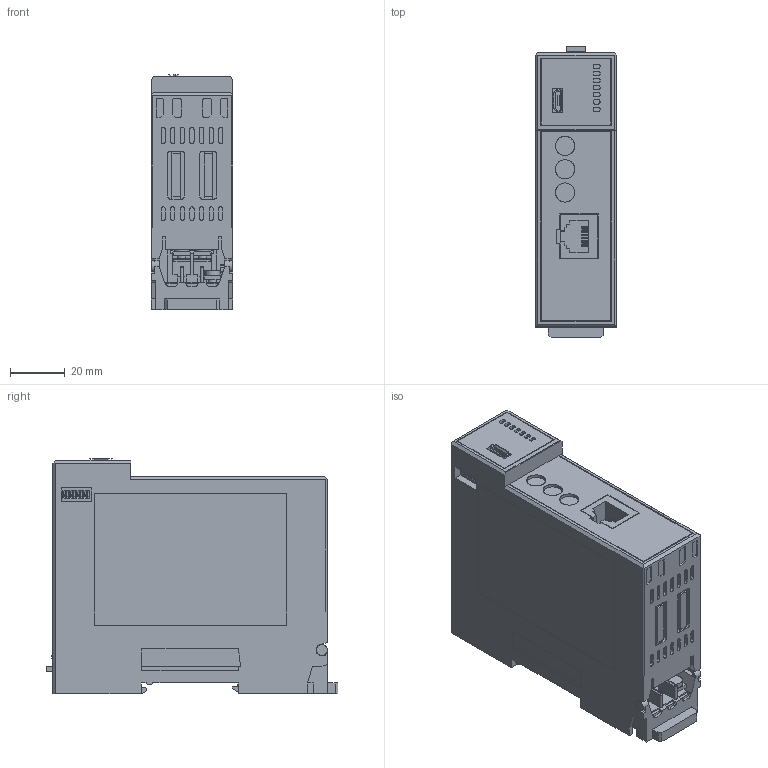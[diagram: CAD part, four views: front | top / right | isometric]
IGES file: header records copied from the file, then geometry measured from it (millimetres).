
Start section: SolidWorks IGES file using analytic representation for surfaces
Global section: file name: \\Mecha-dt\data\mecha_3d\Q\Q僔儕乕僘\QMC1-MT\HP_3D\QMC1-MT_iges\QMC1-MT_230518.IGS; native system: SolidWorks 2022; preprocessor: SolidWorks 2022; author: soyama; date: 230518.164558; units: millimetre
Bounding box: 29.8 x 106.35 x 85.95 mm (x, y, z)
Surface area: 38934.9 mm2 (no closed solid volume)
Topology: 0 solids, 0 shells, 1185 faces, 8704 edges, 8704 vertices
Faces by surface type: bspline 928, revolution 257
